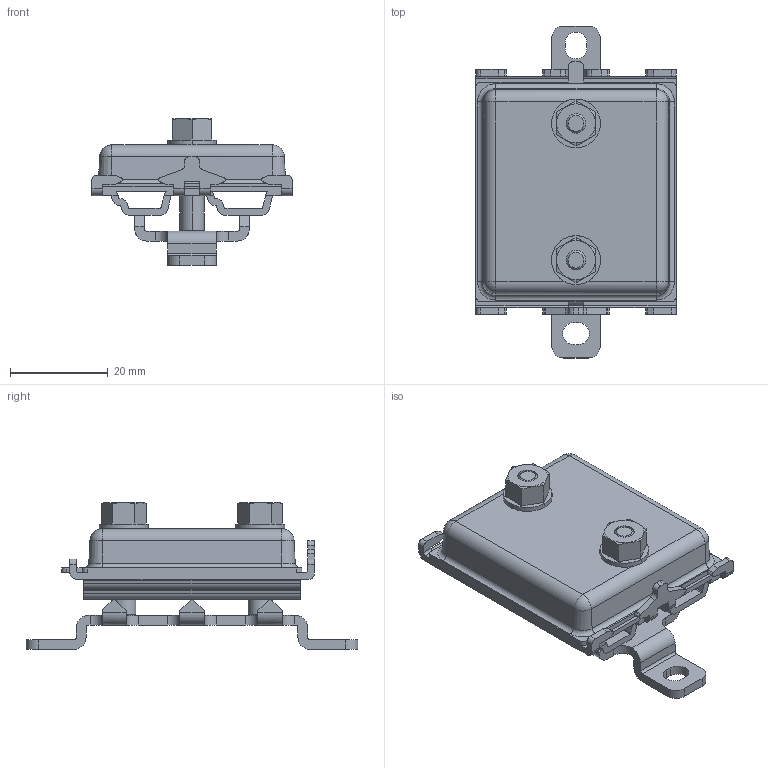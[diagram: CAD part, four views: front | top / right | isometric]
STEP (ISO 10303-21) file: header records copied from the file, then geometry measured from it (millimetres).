
FILE_DESCRIPTION( ( '' ), '1' );
FILE_NAME( '//partserver001.servicenet/client_exchange/iodir/jobs/output/wkb16456013_no1/STEP/e70377_2_03.stp', '2009-05-27T07:39:50', ( '' ), ( '' ), ' ', ' ', ' ' );
FILE_SCHEMA( ( 'CONFIG_CONTROL_DESIGN' ) );
Length unit declared in the file: millimetre
Products named in the file (1): 1
Bounding box: 41 x 68 x 30.1 mm (x, y, z)
Volume: 21492.7 mm3; surface area: 11785.9 mm2
Topology: 1 solids, 1 shells, 352 faces, 1007 edges, 648 vertices
Faces by surface type: plane 199, cylinder 117, cone 28, torus 8
Entity records: 11688 total; most frequent: CARTESIAN_POINT 2298, ORIENTED_EDGE 2010, DIRECTION 1940, EDGE_CURVE 1005, LINE 690, VECTOR 690, VERTEX_POINT 648, AXIS2_PLACEMENT_3D 625
